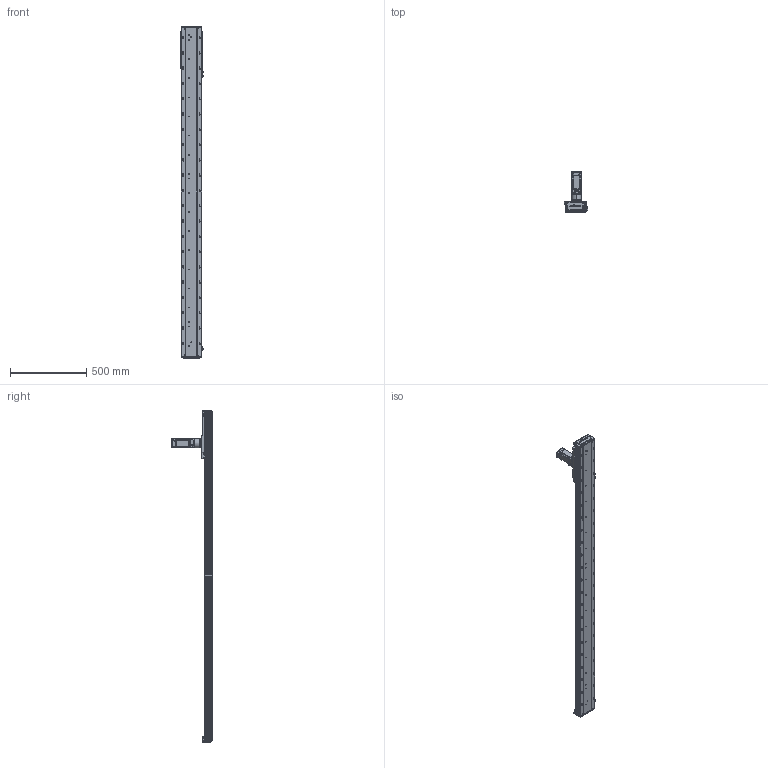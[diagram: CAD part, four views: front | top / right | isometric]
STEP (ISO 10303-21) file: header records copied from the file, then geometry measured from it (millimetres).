
FILE_DESCRIPTION (( 'STEP AP203' ), '1' );
FILE_NAME ('RY140-C-250-UK.SLDASM_1800.step', '2022-03-12T01:59:44', ( '' ), ( '' ), 'SwSTEP 2.0', 'SolidWorks 2016', '' );
FILE_SCHEMA (( 'CONFIG_CONTROL_DESIGN' ));
Length unit declared in the file: millimetre
Products named in the file (12): RY140-C-250-UK.SLDASM_1800; 15; RY140-喘沭裔啣; 覜茼ん672; 140蚥薯蝶輸; RY140-300齿条模组型材底座_1800; 60ZDF珨撰俋倛芞T1 200W M4; RY140-喘沭賑輸; RY140-喘謫萇儂覃誹啣; 絳寢賑輸EGH15; RY120外置感应片(140共用）; RY140-絳寢EGH15-300-MK_1800
Assembly tree (21 placements, depth 2):
  RY140-C-250-UK.SLDASM_1800
    RY140-300齿条模组型材底座_1800
    RY140-絳寢EGH15-300-MK_1800  x2
    絳寢賑輸EGH15  x6
    RY140-喘沭裔啣  x2
    覜茼ん672  x3
    RY140-喘沭賑輸
    RY120外置感应片(140共用）
    RY140-喘謫萇儂覃誹啣
    140蚥薯蝶輸  x2
    60ZDF珨撰俋倛芞T1 200W M4
    15
Bounding box: 153.7 x 263.5 x 2172 mm (x, y, z)
Volume: 6999027.4 mm3; surface area: 1902994.2 mm2
Topology: 21 solids, 21 shells, 3836 faces, 10292 edges, 6638 vertices
Faces by surface type: cylinder 1810, plane 1688, cone 292, bspline 46
Entity records: 89035 total; most frequent: CARTESIAN_POINT 19952, ORIENTED_EDGE 14118, DIRECTION 14071, EDGE_CURVE 7059, AXIS2_PLACEMENT_3D 5090, VERTEX_POINT 4623, LINE 3891, VECTOR 3891
